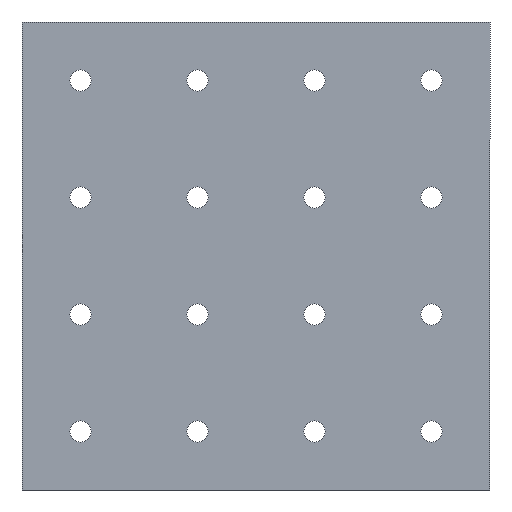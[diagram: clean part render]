
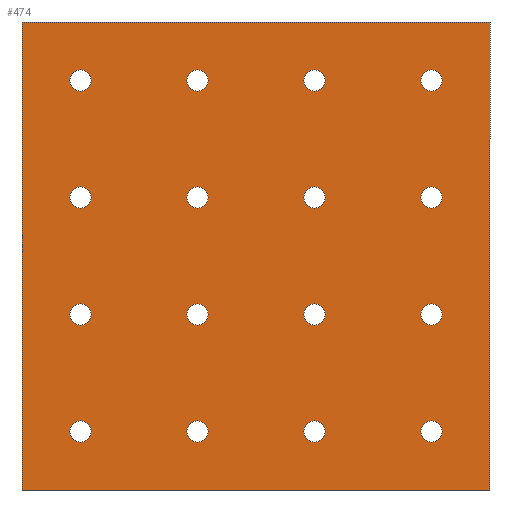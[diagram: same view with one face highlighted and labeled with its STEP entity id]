
A CAD part, front view. The second image highlights one B-rep face of the part: STEP entity #474.
In plain terms, the highlighted planar face has unit normal (0, -1, 0).
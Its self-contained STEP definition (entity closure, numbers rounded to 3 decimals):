
#31=FACE_BOUND('',#113,.T.);
#32=FACE_BOUND('',#114,.T.);
#33=FACE_BOUND('',#115,.T.);
#34=FACE_BOUND('',#116,.T.);
#35=FACE_BOUND('',#117,.T.);
#36=FACE_BOUND('',#118,.T.);
#37=FACE_BOUND('',#119,.T.);
#38=FACE_BOUND('',#120,.T.);
#39=FACE_BOUND('',#121,.T.);
#40=FACE_BOUND('',#122,.T.);
#41=FACE_BOUND('',#123,.T.);
#42=FACE_BOUND('',#124,.T.);
#43=FACE_BOUND('',#125,.T.);
#44=FACE_BOUND('',#126,.T.);
#45=FACE_BOUND('',#127,.T.);
#46=FACE_BOUND('',#128,.T.);
#52=PLANE('',#551);
#74=FACE_OUTER_BOUND('',#112,.T.);
#112=EDGE_LOOP('',(#417,#418,#419,#420));
#113=EDGE_LOOP('',(#421));
#114=EDGE_LOOP('',(#422));
#115=EDGE_LOOP('',(#423));
#116=EDGE_LOOP('',(#424));
#117=EDGE_LOOP('',(#425));
#118=EDGE_LOOP('',(#426));
#119=EDGE_LOOP('',(#427));
#120=EDGE_LOOP('',(#428));
#121=EDGE_LOOP('',(#429));
#122=EDGE_LOOP('',(#430));
#123=EDGE_LOOP('',(#431));
#124=EDGE_LOOP('',(#432));
#125=EDGE_LOOP('',(#433));
#126=EDGE_LOOP('',(#434));
#127=EDGE_LOOP('',(#435));
#128=EDGE_LOOP('',(#436));
#145=LINE('',#790,#173);
#149=LINE('',#798,#177);
#152=LINE('',#804,#180);
#155=LINE('',#809,#183);
#173=VECTOR('',#668,10.);
#177=VECTOR('',#674,10.);
#180=VECTOR('',#679,10.);
#183=VECTOR('',#684,10.);
#186=CIRCLE('',#500,2.25);
#188=CIRCLE('',#503,2.25);
#190=CIRCLE('',#506,2.25);
#192=CIRCLE('',#509,2.25);
#194=CIRCLE('',#512,2.25);
#196=CIRCLE('',#515,2.25);
#198=CIRCLE('',#518,2.25);
#200=CIRCLE('',#521,2.25);
#202=CIRCLE('',#524,2.25);
#204=CIRCLE('',#527,2.25);
#206=CIRCLE('',#530,2.25);
#208=CIRCLE('',#533,2.25);
#210=CIRCLE('',#536,2.25);
#212=CIRCLE('',#539,2.25);
#214=CIRCLE('',#542,2.25);
#216=CIRCLE('',#545,2.25);
#218=VERTEX_POINT('',#694);
#220=VERTEX_POINT('',#700);
#222=VERTEX_POINT('',#706);
#224=VERTEX_POINT('',#712);
#226=VERTEX_POINT('',#718);
#228=VERTEX_POINT('',#724);
#230=VERTEX_POINT('',#730);
#232=VERTEX_POINT('',#736);
#234=VERTEX_POINT('',#742);
#236=VERTEX_POINT('',#748);
#238=VERTEX_POINT('',#754);
#240=VERTEX_POINT('',#760);
#242=VERTEX_POINT('',#766);
#244=VERTEX_POINT('',#772);
#246=VERTEX_POINT('',#778);
#248=VERTEX_POINT('',#784);
#249=VERTEX_POINT('',#788);
#250=VERTEX_POINT('',#789);
#253=VERTEX_POINT('',#797);
#255=VERTEX_POINT('',#803);
#259=EDGE_CURVE('',#218,#218,#186,.T.);
#262=EDGE_CURVE('',#220,#220,#188,.T.);
#265=EDGE_CURVE('',#222,#222,#190,.T.);
#268=EDGE_CURVE('',#224,#224,#192,.T.);
#271=EDGE_CURVE('',#226,#226,#194,.T.);
#274=EDGE_CURVE('',#228,#228,#196,.T.);
#277=EDGE_CURVE('',#230,#230,#198,.T.);
#280=EDGE_CURVE('',#232,#232,#200,.T.);
#283=EDGE_CURVE('',#234,#234,#202,.T.);
#286=EDGE_CURVE('',#236,#236,#204,.T.);
#289=EDGE_CURVE('',#238,#238,#206,.T.);
#292=EDGE_CURVE('',#240,#240,#208,.T.);
#295=EDGE_CURVE('',#242,#242,#210,.T.);
#298=EDGE_CURVE('',#244,#244,#212,.T.);
#301=EDGE_CURVE('',#246,#246,#214,.T.);
#304=EDGE_CURVE('',#248,#248,#216,.T.);
#305=EDGE_CURVE('',#249,#250,#145,.T.);
#309=EDGE_CURVE('',#253,#249,#149,.T.);
#312=EDGE_CURVE('',#255,#253,#152,.T.);
#315=EDGE_CURVE('',#250,#255,#155,.T.);
#417=ORIENTED_EDGE('',*,*,#315,.F.);
#418=ORIENTED_EDGE('',*,*,#305,.F.);
#419=ORIENTED_EDGE('',*,*,#309,.F.);
#420=ORIENTED_EDGE('',*,*,#312,.F.);
#421=ORIENTED_EDGE('',*,*,#304,.F.);
#422=ORIENTED_EDGE('',*,*,#301,.F.);
#423=ORIENTED_EDGE('',*,*,#298,.F.);
#424=ORIENTED_EDGE('',*,*,#295,.F.);
#425=ORIENTED_EDGE('',*,*,#292,.F.);
#426=ORIENTED_EDGE('',*,*,#289,.F.);
#427=ORIENTED_EDGE('',*,*,#286,.F.);
#428=ORIENTED_EDGE('',*,*,#283,.F.);
#429=ORIENTED_EDGE('',*,*,#280,.F.);
#430=ORIENTED_EDGE('',*,*,#277,.F.);
#431=ORIENTED_EDGE('',*,*,#274,.F.);
#432=ORIENTED_EDGE('',*,*,#271,.F.);
#433=ORIENTED_EDGE('',*,*,#268,.F.);
#434=ORIENTED_EDGE('',*,*,#265,.F.);
#435=ORIENTED_EDGE('',*,*,#262,.F.);
#436=ORIENTED_EDGE('',*,*,#259,.F.);
#474=ADVANCED_FACE('',(#74,#31,#32,#33,#34,#35,#36,#37,#38,#39,#40,#41,
#42,#43,#44,#45,#46),#52,.F.);
#500=AXIS2_PLACEMENT_3D('',#696,#559,#560);
#503=AXIS2_PLACEMENT_3D('',#702,#566,#567);
#506=AXIS2_PLACEMENT_3D('',#708,#573,#574);
#509=AXIS2_PLACEMENT_3D('',#714,#580,#581);
#512=AXIS2_PLACEMENT_3D('',#720,#587,#588);
#515=AXIS2_PLACEMENT_3D('',#726,#594,#595);
#518=AXIS2_PLACEMENT_3D('',#732,#601,#602);
#521=AXIS2_PLACEMENT_3D('',#738,#608,#609);
#524=AXIS2_PLACEMENT_3D('',#744,#615,#616);
#527=AXIS2_PLACEMENT_3D('',#750,#622,#623);
#530=AXIS2_PLACEMENT_3D('',#756,#629,#630);
#533=AXIS2_PLACEMENT_3D('',#762,#636,#637);
#536=AXIS2_PLACEMENT_3D('',#768,#643,#644);
#539=AXIS2_PLACEMENT_3D('',#774,#650,#651);
#542=AXIS2_PLACEMENT_3D('',#780,#657,#658);
#545=AXIS2_PLACEMENT_3D('',#786,#664,#665);
#551=AXIS2_PLACEMENT_3D('',#812,#688,#689);
#559=DIRECTION('center_axis',(0.,-1.,0.));
#560=DIRECTION('ref_axis',(1.,0.,0.));
#566=DIRECTION('center_axis',(0.,-1.,0.));
#567=DIRECTION('ref_axis',(1.,0.,0.));
#573=DIRECTION('center_axis',(0.,-1.,0.));
#574=DIRECTION('ref_axis',(1.,0.,0.));
#580=DIRECTION('center_axis',(0.,-1.,0.));
#581=DIRECTION('ref_axis',(1.,0.,0.));
#587=DIRECTION('center_axis',(0.,-1.,0.));
#588=DIRECTION('ref_axis',(1.,0.,0.));
#594=DIRECTION('center_axis',(0.,-1.,0.));
#595=DIRECTION('ref_axis',(1.,0.,0.));
#601=DIRECTION('center_axis',(0.,-1.,0.));
#602=DIRECTION('ref_axis',(1.,0.,0.));
#608=DIRECTION('center_axis',(0.,-1.,0.));
#609=DIRECTION('ref_axis',(1.,0.,0.));
#615=DIRECTION('center_axis',(0.,-1.,0.));
#616=DIRECTION('ref_axis',(1.,0.,0.));
#622=DIRECTION('center_axis',(0.,-1.,0.));
#623=DIRECTION('ref_axis',(1.,0.,0.));
#629=DIRECTION('center_axis',(0.,-1.,0.));
#630=DIRECTION('ref_axis',(1.,0.,0.));
#636=DIRECTION('center_axis',(0.,-1.,0.));
#637=DIRECTION('ref_axis',(1.,0.,0.));
#643=DIRECTION('center_axis',(0.,-1.,0.));
#644=DIRECTION('ref_axis',(1.,0.,0.));
#650=DIRECTION('center_axis',(0.,-1.,0.));
#651=DIRECTION('ref_axis',(1.,0.,0.));
#657=DIRECTION('center_axis',(0.,-1.,0.));
#658=DIRECTION('ref_axis',(1.,0.,0.));
#664=DIRECTION('center_axis',(0.,-1.,0.));
#665=DIRECTION('ref_axis',(1.,0.,0.));
#668=DIRECTION('',(0.,0.,-1.));
#674=DIRECTION('',(1.,0.,0.));
#679=DIRECTION('',(0.,0.,1.));
#684=DIRECTION('',(-1.,0.,0.));
#688=DIRECTION('center_axis',(0.,1.,0.));
#689=DIRECTION('ref_axis',(0.,0.,1.));
#694=CARTESIAN_POINT('',(-89.75,0.,-62.5));
#696=CARTESIAN_POINT('Origin',(-87.5,0.,-62.5));
#700=CARTESIAN_POINT('',(-89.75,0.,-12.5));
#702=CARTESIAN_POINT('Origin',(-87.5,0.,-12.5));
#706=CARTESIAN_POINT('',(-64.75,0.,-62.5));
#708=CARTESIAN_POINT('Origin',(-62.5,0.,-62.5));
#712=CARTESIAN_POINT('',(-64.75,0.,-12.5));
#714=CARTESIAN_POINT('Origin',(-62.5,0.,-12.5));
#718=CARTESIAN_POINT('',(-14.75,0.,-12.5));
#720=CARTESIAN_POINT('Origin',(-12.5,0.,-12.5));
#724=CARTESIAN_POINT('',(-14.75,0.,-37.5));
#726=CARTESIAN_POINT('Origin',(-12.5,0.,-37.5));
#730=CARTESIAN_POINT('',(-14.75,0.,-62.5));
#732=CARTESIAN_POINT('Origin',(-12.5,0.,-62.5));
#736=CARTESIAN_POINT('',(-14.75,0.,-87.5));
#738=CARTESIAN_POINT('Origin',(-12.5,0.,-87.5));
#742=CARTESIAN_POINT('',(-39.75,0.,-12.5));
#744=CARTESIAN_POINT('Origin',(-37.5,0.,-12.5));
#748=CARTESIAN_POINT('',(-39.75,0.,-37.5));
#750=CARTESIAN_POINT('Origin',(-37.5,0.,-37.5));
#754=CARTESIAN_POINT('',(-39.75,0.,-62.5));
#756=CARTESIAN_POINT('Origin',(-37.5,0.,-62.5));
#760=CARTESIAN_POINT('',(-39.75,0.,-87.5));
#762=CARTESIAN_POINT('Origin',(-37.5,0.,-87.5));
#766=CARTESIAN_POINT('',(-64.75,0.,-37.5));
#768=CARTESIAN_POINT('Origin',(-62.5,0.,-37.5));
#772=CARTESIAN_POINT('',(-64.75,0.,-87.5));
#774=CARTESIAN_POINT('Origin',(-62.5,0.,-87.5));
#778=CARTESIAN_POINT('',(-89.75,0.,-37.5));
#780=CARTESIAN_POINT('Origin',(-87.5,0.,-37.5));
#784=CARTESIAN_POINT('',(-89.75,0.,-87.5));
#786=CARTESIAN_POINT('Origin',(-87.5,0.,-87.5));
#788=CARTESIAN_POINT('',(0.,0.,0.));
#789=CARTESIAN_POINT('',(0.,0.,-100.));
#790=CARTESIAN_POINT('',(0.,0.,0.));
#797=CARTESIAN_POINT('',(-100.,0.,0.));
#798=CARTESIAN_POINT('',(-100.,0.,0.));
#803=CARTESIAN_POINT('',(-100.,0.,-100.));
#804=CARTESIAN_POINT('',(-100.,0.,-100.));
#809=CARTESIAN_POINT('',(0.,0.,-100.));
#812=CARTESIAN_POINT('Origin',(-50.,0.,-50.));
